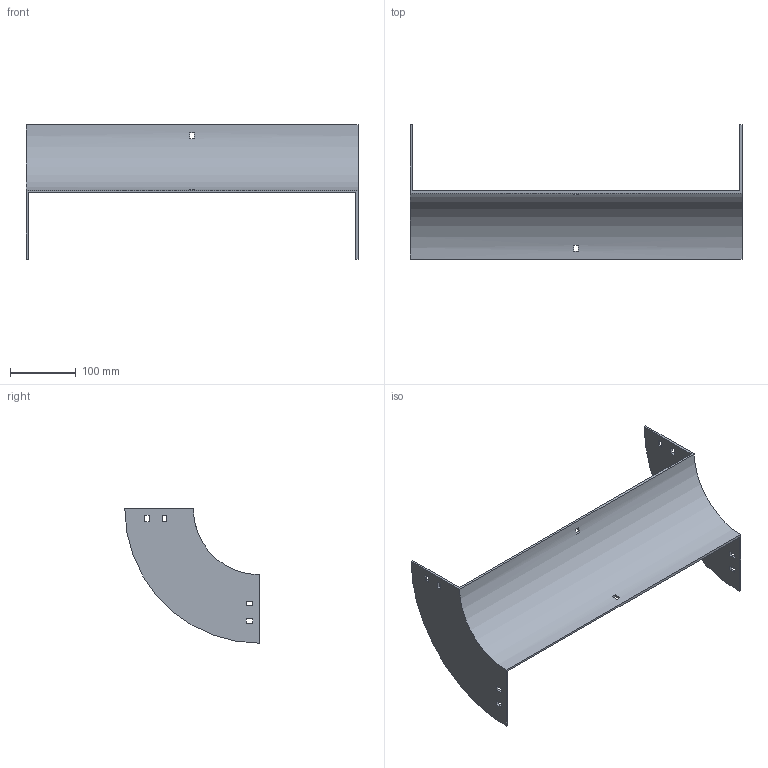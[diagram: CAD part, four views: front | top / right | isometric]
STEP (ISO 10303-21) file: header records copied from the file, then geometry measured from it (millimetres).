
FILE_DESCRIPTION (( 'STEP AP214' ), '1' );
FILE_NAME ('33B1D600.step', '2025-02-21T09:30:48', ( '' ), ( '' ), 'SwSTEP 2.0', 'SolidWorks 2023', '' );
FILE_SCHEMA (( 'AUTOMOTIVE_DESIGN' ));
Length unit declared in the file: millimetre
Products named in the file (1): 33B1D600
Bounding box: 504 x 204 x 204 mm (x, y, z)
Volume: 449464.6 mm3; surface area: 265167.8 mm2
Topology: 1 solids, 1 shells, 50 faces, 144 edges, 96 vertices
Faces by surface type: plane 46, cylinder 4
Entity records: 1687 total; most frequent: CARTESIAN_POINT 291, ORIENTED_EDGE 288, DIRECTION 262, EDGE_CURVE 144, LINE 128, VECTOR 128, VERTEX_POINT 96, EDGE_LOOP 70
